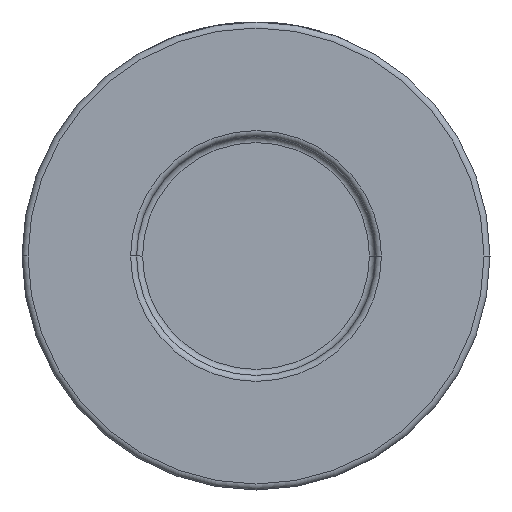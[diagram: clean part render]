
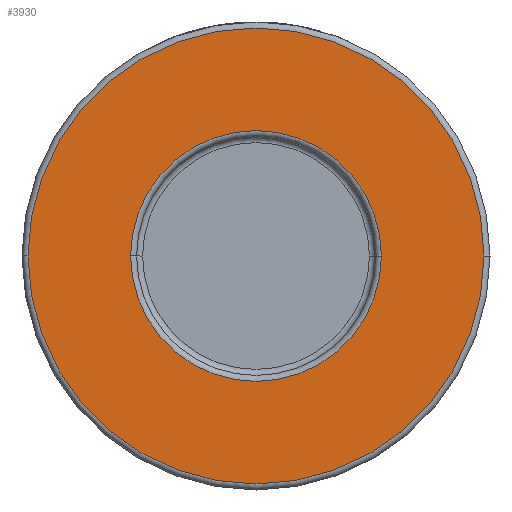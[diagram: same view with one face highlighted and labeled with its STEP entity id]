
A CAD part, front view. The second image highlights one B-rep face of the part: STEP entity #3930.
In plain terms, the highlighted planar face has unit normal (0, -1, 0).
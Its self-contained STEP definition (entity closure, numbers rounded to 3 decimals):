
#88 = CIRCLE ( 'NONE', #2577, 38. ) ;
#171 = EDGE_CURVE ( 'NONE', #4455, #1950, #1867, .T. ) ;
#270 = EDGE_LOOP ( 'NONE', ( #4215, #1329 ) ) ;
#460 = CIRCLE ( 'NONE', #3469, 38. ) ;
#668 = DIRECTION ( 'NONE',  ( 0., -1., 0. ) ) ;
#761 = CIRCLE ( 'NONE', #3757, 20.9 ) ;
#910 = VERTEX_POINT ( 'NONE', #1153 ) ;
#911 = AXIS2_PLACEMENT_3D ( 'NONE', #1810, #4232, #1513 ) ;
#979 = ORIENTED_EDGE ( 'NONE', *, *, #171, .T. ) ;
#994 = DIRECTION ( 'NONE',  ( 1., 0., 0. ) ) ;
#1153 = CARTESIAN_POINT ( 'NONE',  ( 38., -19., 0. ) ) ;
#1329 = ORIENTED_EDGE ( 'NONE', *, *, #1660, .T. ) ;
#1466 = EDGE_CURVE ( 'NONE', #1950, #4455, #761, .T. ) ;
#1513 = DIRECTION ( 'NONE',  ( 1., 0., 0. ) ) ;
#1560 = VERTEX_POINT ( 'NONE', #3426 ) ;
#1660 = EDGE_CURVE ( 'NONE', #1560, #910, #88, .T. ) ;
#1709 = DIRECTION ( 'NONE',  ( 1., 0., 0. ) ) ;
#1810 = CARTESIAN_POINT ( 'NONE',  ( 39., -19., 0. ) ) ;
#1851 = FACE_BOUND ( 'NONE', #3597, .T. ) ;
#1867 = CIRCLE ( 'NONE', #3704, 20.9 ) ;
#1950 = VERTEX_POINT ( 'NONE', #1989 ) ;
#1972 = DIRECTION ( 'NONE',  ( 1., 0., 0. ) ) ;
#1989 = CARTESIAN_POINT ( 'NONE',  ( 20.9, -19., 0. ) ) ;
#2203 = DIRECTION ( 'NONE',  ( 0., -1., 0. ) ) ;
#2435 = CARTESIAN_POINT ( 'NONE',  ( 0., -19., 0. ) ) ;
#2577 = AXIS2_PLACEMENT_3D ( 'NONE', #3809, #668, #994 ) ;
#2837 = PLANE ( 'NONE',  #911 ) ;
#3144 = CARTESIAN_POINT ( 'NONE',  ( -20.9, -19., 0. ) ) ;
#3259 = FACE_OUTER_BOUND ( 'NONE', #270, .T. ) ;
#3262 = ORIENTED_EDGE ( 'NONE', *, *, #1466, .T. ) ;
#3268 = DIRECTION ( 'NONE',  ( 1., 0., 0. ) ) ;
#3320 = EDGE_CURVE ( 'NONE', #910, #1560, #460, .T. ) ;
#3426 = CARTESIAN_POINT ( 'NONE',  ( -38., -19., 0. ) ) ;
#3469 = AXIS2_PLACEMENT_3D ( 'NONE', #3589, #2203, #3268 ) ;
#3589 = CARTESIAN_POINT ( 'NONE',  ( 0., -19., 0. ) ) ;
#3597 = EDGE_LOOP ( 'NONE', ( #3262, #979 ) ) ;
#3704 = AXIS2_PLACEMENT_3D ( 'NONE', #4427, #4080, #1972 ) ;
#3757 = AXIS2_PLACEMENT_3D ( 'NONE', #2435, #4482, #1709 ) ;
#3809 = CARTESIAN_POINT ( 'NONE',  ( 0., -19., 0. ) ) ;
#3930 = ADVANCED_FACE ( 'NONE', ( #1851, #3259 ), #2837, .T. ) ;
#4080 = DIRECTION ( 'NONE',  ( 0., 1., 0. ) ) ;
#4215 = ORIENTED_EDGE ( 'NONE', *, *, #3320, .T. ) ;
#4232 = DIRECTION ( 'NONE',  ( 0., -1., 0. ) ) ;
#4427 = CARTESIAN_POINT ( 'NONE',  ( 0., -19., 0. ) ) ;
#4455 = VERTEX_POINT ( 'NONE', #3144 ) ;
#4482 = DIRECTION ( 'NONE',  ( 0., 1., 0. ) ) ;
